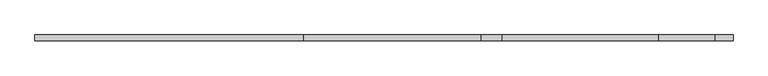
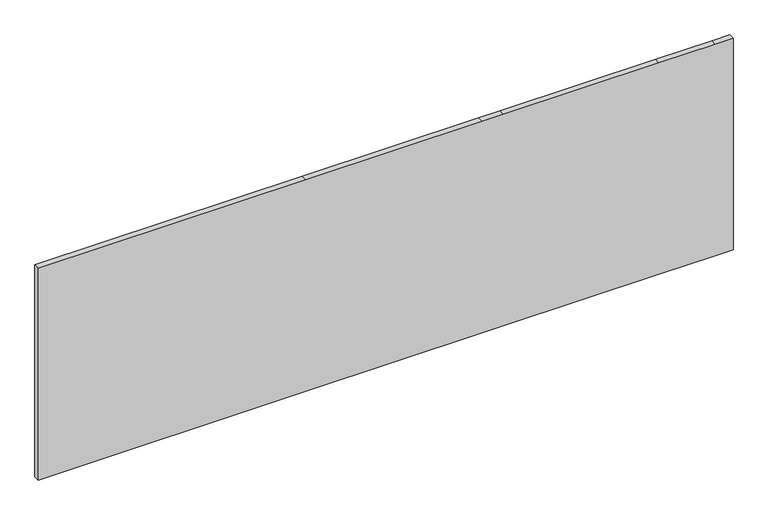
"""IFC4 building model written with IfcOpenShell, lengths in millimetres: plate geometry, Системная панель : С остеклением."""

from ifc_helpers import new_model, si_unit, frame, origin, place, context, project, spatial, polyline, outline, extrude, source, transform, mapped, element, save


def plate_48cae7f2(model_context):
    return source(origin(), model_context, "Body", "SweptSolid", [
        extrude(outline(polyline([(0.0, -1475.0), (0.0, -340.0), (0.0, 410.0), (0.0, 500.0), (0.0, 1160.0), (0.0, 1400.0), (0.0, 1475.0), (950.0, 1475.0), (950.0, 1400.0), (950.0, 1160.0), (950.0, 500.0), (950.0, 410.0), (950.0, -340.0), (950.0, -1475.0), (0.0, -1475.0)])), frame((0.0, -49.5, 0.0), z_axis=(0.0, 1.0, 0.0), x_axis=(0.0, 0.0, 1.0)), (0.0, 0.0, 1.0), 25.0),
    ])


if __name__ == "__main__":
    model = new_model("IFC4")
    model_context = context("Model", 3, world=origin())
    ifc_project = project(units=[si_unit("LENGTHUNIT", "METRE", prefix="MILLI")], contexts=[model_context])
    site = spatial("IfcSite", under=ifc_project)
    building = spatial("IfcBuilding", under=site)
    placement = place(None, origin())
    plate_shape = plate_48cae7f2(model_context)
    element("IfcPlate", 1, ObjectType="Системная панель : С остеклением", at=placement, inside=building, context=model_context, shape_type="MappedRepresentation", body=[
        mapped(plate_shape, transform((0.0, 0.0, 0.0), x_axis=(1.0, 0.0, 0.0), y_axis=(0.0, 1.0, 0.0), z_axis=(0.0, 0.0, 1.0))),
    ])
    save(model, "model.ifc")
